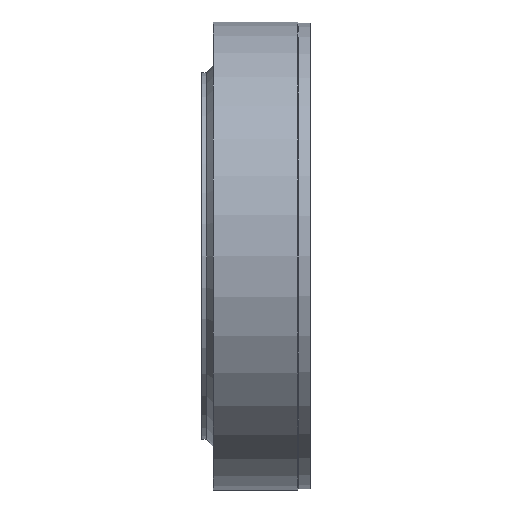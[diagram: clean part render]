
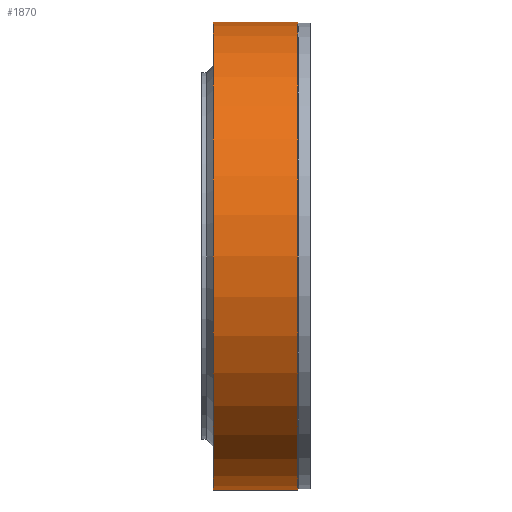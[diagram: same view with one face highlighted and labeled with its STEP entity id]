
A CAD part, left-side view. The second image highlights one B-rep face of the part: STEP entity #1870.
In plain terms, the highlighted cylindrical face has radius 200 mm (diameter 400 mm), a partial arc.
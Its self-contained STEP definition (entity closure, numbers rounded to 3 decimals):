
#302 = ORIENTED_EDGE ( 'NONE', *, *, #2462, .F. ) ;
#319 = CARTESIAN_POINT ( 'NONE',  ( 0., -45.951, 200. ) ) ;
#623 = VERTEX_POINT ( 'NONE', #319 ) ;
#643 = EDGE_CURVE ( 'NONE', #5815, #5294, #4164, .T. ) ;
#824 = DIRECTION ( 'NONE',  ( 0., -1., 0. ) ) ;
#901 = CYLINDRICAL_SURFACE ( 'NONE', #4834, 200. ) ;
#936 = DIRECTION ( 'NONE',  ( 0., -1., 0. ) ) ;
#1020 = DIRECTION ( 'NONE',  ( 0., -1., 0. ) ) ;
#1247 = EDGE_LOOP ( 'NONE', ( #302, #3145, #4323, #4799 ) ) ;
#1371 = AXIS2_PLACEMENT_3D ( 'NONE', #4499, #3990, #2539 ) ;
#1438 = DIRECTION ( 'NONE',  ( 0., 0., -1. ) ) ;
#1491 = LINE ( 'NONE', #5354, #4806 ) ;
#1870 = ADVANCED_FACE ( 'NONE', ( #3331 ), #901, .T. ) ;
#2323 = EDGE_CURVE ( 'NONE', #623, #5815, #3183, .T. ) ;
#2349 = CIRCLE ( 'NONE', #3459, 200. ) ;
#2408 = CARTESIAN_POINT ( 'NONE',  ( 0., -117.951, 200. ) ) ;
#2442 = CARTESIAN_POINT ( 'NONE',  ( 0., -117.951, -200. ) ) ;
#2462 = EDGE_CURVE ( 'NONE', #623, #5174, #1491, .T. ) ;
#2539 = DIRECTION ( 'NONE',  ( 0., 0., -1. ) ) ;
#3145 = ORIENTED_EDGE ( 'NONE', *, *, #2323, .T. ) ;
#3183 = CIRCLE ( 'NONE', #1371, 200. ) ;
#3215 = DIRECTION ( 'NONE',  ( 0., -1., 0. ) ) ;
#3331 = FACE_OUTER_BOUND ( 'NONE', #1247, .T. ) ;
#3459 = AXIS2_PLACEMENT_3D ( 'NONE', #5151, #824, #4202 ) ;
#3844 = EDGE_CURVE ( 'NONE', #5174, #5294, #2349, .T. ) ;
#3990 = DIRECTION ( 'NONE',  ( 0., -1., 0. ) ) ;
#4164 = LINE ( 'NONE', #6103, #4641 ) ;
#4185 = CARTESIAN_POINT ( 'NONE',  ( 0., -45.951, -200. ) ) ;
#4202 = DIRECTION ( 'NONE',  ( 0., 0., -1. ) ) ;
#4323 = ORIENTED_EDGE ( 'NONE', *, *, #643, .T. ) ;
#4499 = CARTESIAN_POINT ( 'NONE',  ( 0., -45.951, 0. ) ) ;
#4641 = VECTOR ( 'NONE', #3215, 1000. ) ;
#4799 = ORIENTED_EDGE ( 'NONE', *, *, #3844, .F. ) ;
#4806 = VECTOR ( 'NONE', #1020, 1000. ) ;
#4834 = AXIS2_PLACEMENT_3D ( 'NONE', #5709, #936, #1438 ) ;
#5151 = CARTESIAN_POINT ( 'NONE',  ( 0., -117.951, 0. ) ) ;
#5174 = VERTEX_POINT ( 'NONE', #2408 ) ;
#5294 = VERTEX_POINT ( 'NONE', #2442 ) ;
#5354 = CARTESIAN_POINT ( 'NONE',  ( 0., 0., 200. ) ) ;
#5709 = CARTESIAN_POINT ( 'NONE',  ( 0., 0., 0. ) ) ;
#5815 = VERTEX_POINT ( 'NONE', #4185 ) ;
#6103 = CARTESIAN_POINT ( 'NONE',  ( 0., 0., -200. ) ) ;
